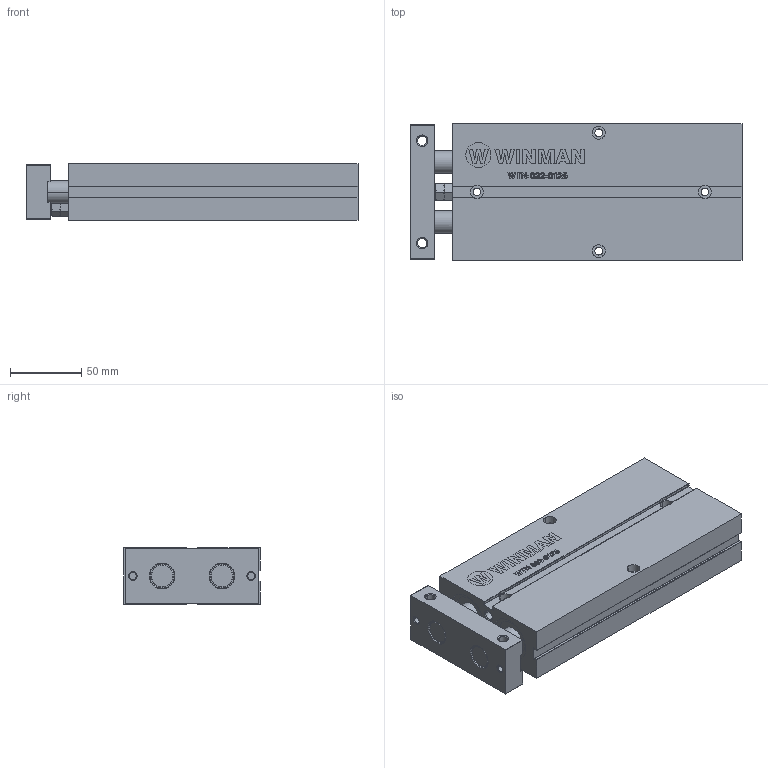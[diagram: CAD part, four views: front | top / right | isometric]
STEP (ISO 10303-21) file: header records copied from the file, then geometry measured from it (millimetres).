
FILE_DESCRIPTION (( 'STEP AP214' ), '1' );
FILE_NAME ('WTN-032-0125 (3D).STEP', '2019-10-28T08:41:52', ( '' ), ( '' ), 'SwSTEP 2.0', 'SolidWorks 2016', '' );
FILE_SCHEMA (( 'AUTOMOTIVE_DESIGN' ));
Length unit declared in the file: millimetre
Products named in the file (3): WTN-032-0125-b; WTN-032-0125 (3D); WTN-032-0125-fp
Assembly tree (2 placements, depth 2):
  WTN-032-0125 (3D)
    WTN-032-0125-b
    WTN-032-0125-fp
Bounding box: 233 x 96 x 40 mm (x, y, z)
Volume: 650740.1 mm3; surface area: 149424.7 mm2
Topology: 2 solids, 2 shells, 530 faces, 1367 edges, 891 vertices
Faces by surface type: plane 269, cylinder 134, bspline 70, cone 57
Entity records: 23281 total; most frequent: CARTESIAN_POINT 7257, ORIENTED_EDGE 2734, DIRECTION 2366, EDGE_CURVE 1367, VERTEX_POINT 891, LINE 842, VECTOR 842, AXIS2_PLACEMENT_3D 762
